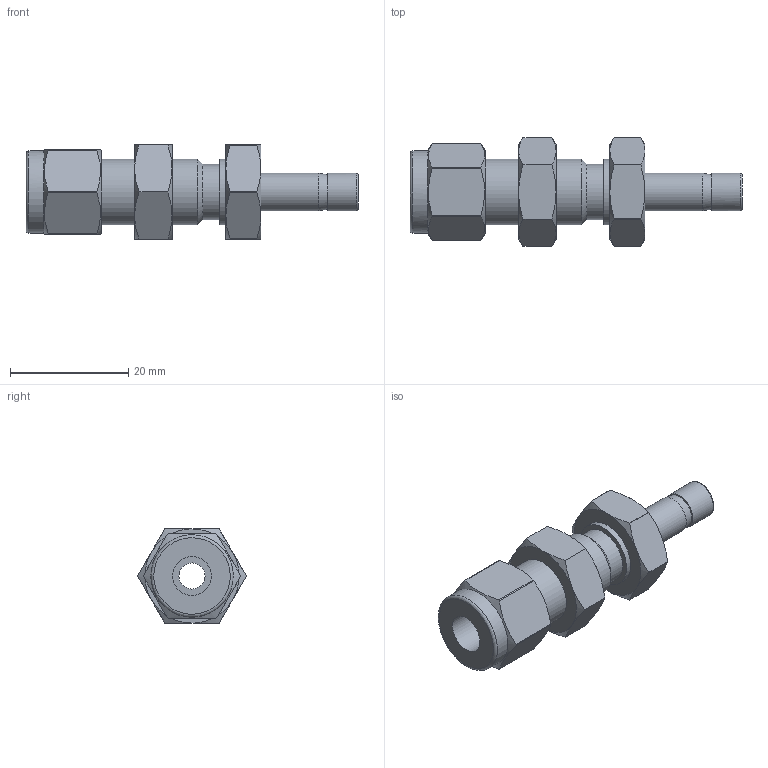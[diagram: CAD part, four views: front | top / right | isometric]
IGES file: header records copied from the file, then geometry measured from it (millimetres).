
Global section: file name: SRB-4-4; native system: Autodesk Inventor 2016; preprocessor: unknown; author: 배성훈,,11,0; organization: 20151111.081306; date: 20151113.104448; units: millimetre
Bounding box: 56.04 x 18.36 x 15.9 mm (x, y, z)
Volume: 5524.9 mm3; surface area: 3766 mm2
Topology: 1 solids, 1 shells, 80 faces, 203 edges, 134 vertices
Faces by surface type: bspline 80
